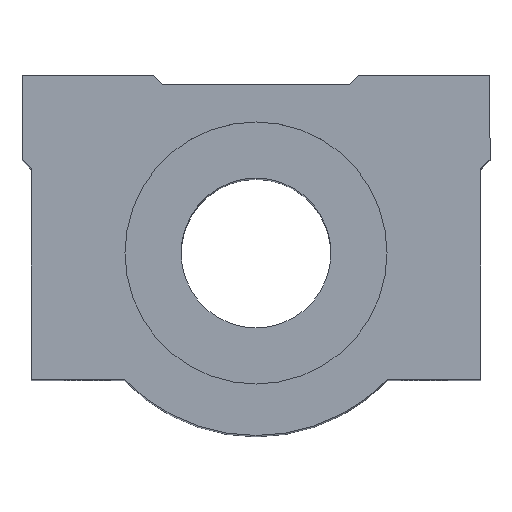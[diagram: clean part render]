
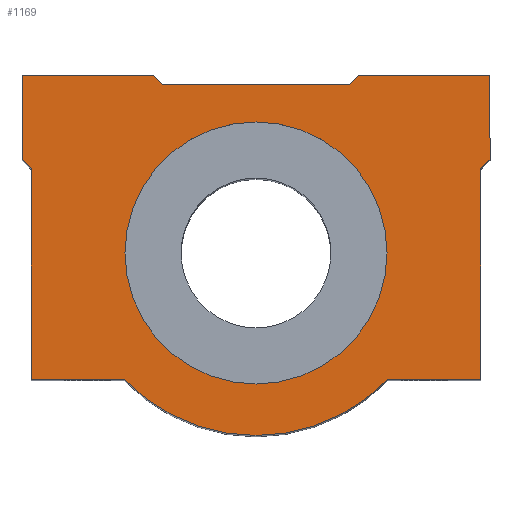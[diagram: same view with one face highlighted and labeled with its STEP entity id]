
A CAD part, top view. The second image highlights one B-rep face of the part: STEP entity #1169.
In plain terms, the highlighted planar face has unit normal (0, 0, 1).
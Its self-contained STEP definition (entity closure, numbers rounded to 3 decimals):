
#91=CARTESIAN_POINT('',(-14.709,4.198,83.0));
#92=VERTEX_POINT('',#91);
#101=CARTESIAN_POINT('',(13.291,4.198,83.0));
#102=VERTEX_POINT('',#101);
#103=CARTESIAN_POINT('',(-0.709,4.198,83.));
#104=DIRECTION('',(0.0,0.0,-1.0));
#105=DIRECTION('',(-1.0,0.0,0.0));
#106=AXIS2_PLACEMENT_3D('',#103,#104,#105);
#107=CIRCLE('',#106,14.);
#108=EDGE_CURVE('',#102,#92,#107,.T.);
#640=CARTESIAN_POINT('',(-0.709,4.198,83.));
#641=DIRECTION('',(0.0,0.0,-1.0));
#642=DIRECTION('',(-1.0,0.0,0.0));
#643=AXIS2_PLACEMENT_3D('',#640,#641,#642);
#644=CIRCLE('',#643,14.);
#645=EDGE_CURVE('',#92,#102,#644,.T.);
#780=CARTESIAN_POINT('',(24.291,14.198,83.));
#781=VERTEX_POINT('',#780);
#782=CARTESIAN_POINT('',(23.291,13.198,83.));
#783=VERTEX_POINT('',#782);
#784=CARTESIAN_POINT('',(24.291,14.198,83.));
#785=DIRECTION('',(-0.707,-0.707,0.0));
#786=VECTOR('',#785,1.414);
#787=LINE('',#784,#786);
#788=EDGE_CURVE('',#781,#783,#787,.T.);
#811=CARTESIAN_POINT('',(23.291,-9.302,83.));
#812=VERTEX_POINT('',#811);
#813=CARTESIAN_POINT('',(23.291,13.198,83.));
#814=DIRECTION('',(0.0,-1.0,0.0));
#815=VECTOR('',#814,22.5);
#816=LINE('',#813,#815);
#817=EDGE_CURVE('',#783,#812,#816,.T.);
#835=CARTESIAN_POINT('',(13.362,-9.302,83.));
#836=VERTEX_POINT('',#835);
#837=CARTESIAN_POINT('',(23.291,-9.302,83.));
#838=DIRECTION('',(-1.0,0.0,0.0));
#839=VECTOR('',#838,9.929);
#840=LINE('',#837,#839);
#841=EDGE_CURVE('',#812,#836,#840,.T.);
#867=CARTESIAN_POINT('',(-14.78,-9.302,83.));
#868=VERTEX_POINT('',#867);
#869=CARTESIAN_POINT('',(-0.709,4.198,83.0));
#870=DIRECTION('',(0.0,0.0,-1.0));
#871=DIRECTION('',(0.722,0.692,0.0));
#872=AXIS2_PLACEMENT_3D('',#869,#870,#871);
#873=CIRCLE('',#872,19.5);
#874=EDGE_CURVE('',#836,#868,#873,.T.);
#892=CARTESIAN_POINT('',(-24.709,-9.302,83.));
#893=VERTEX_POINT('',#892);
#894=CARTESIAN_POINT('',(-14.78,-9.302,83.));
#895=DIRECTION('',(-1.0,0.0,0.0));
#896=VECTOR('',#895,9.929);
#897=LINE('',#894,#896);
#898=EDGE_CURVE('',#868,#893,#897,.T.);
#924=CARTESIAN_POINT('',(-24.709,13.198,83.));
#925=VERTEX_POINT('',#924);
#926=CARTESIAN_POINT('',(-24.709,-9.302,83.));
#927=DIRECTION('',(0.0,1.0,0.0));
#928=VECTOR('',#927,22.5);
#929=LINE('',#926,#928);
#930=EDGE_CURVE('',#893,#925,#929,.T.);
#948=CARTESIAN_POINT('',(-25.709,14.198,83.));
#949=VERTEX_POINT('',#948);
#950=CARTESIAN_POINT('',(-24.709,13.198,83.));
#951=DIRECTION('',(-0.707,0.707,0.0));
#952=VECTOR('',#951,1.414);
#953=LINE('',#950,#952);
#954=EDGE_CURVE('',#925,#949,#953,.T.);
#972=CARTESIAN_POINT('',(-25.709,23.198,83.));
#973=VERTEX_POINT('',#972);
#974=CARTESIAN_POINT('',(-25.709,14.198,83.));
#975=DIRECTION('',(0.0,1.0,0.0));
#976=VECTOR('',#975,9.);
#977=LINE('',#974,#976);
#978=EDGE_CURVE('',#949,#973,#977,.T.);
#996=CARTESIAN_POINT('',(-11.709,23.198,83.));
#997=VERTEX_POINT('',#996);
#998=CARTESIAN_POINT('',(-25.709,23.198,83.));
#999=DIRECTION('',(1.0,0.0,0.0));
#1000=VECTOR('',#999,14.);
#1001=LINE('',#998,#1000);
#1002=EDGE_CURVE('',#973,#997,#1001,.T.);
#1028=CARTESIAN_POINT('',(-10.709,22.198,83.));
#1029=VERTEX_POINT('',#1028);
#1030=CARTESIAN_POINT('',(-11.709,23.198,83.));
#1031=DIRECTION('',(0.707,-0.707,0.0));
#1032=VECTOR('',#1031,1.414);
#1033=LINE('',#1030,#1032);
#1034=EDGE_CURVE('',#997,#1029,#1033,.T.);
#1052=CARTESIAN_POINT('',(9.291,22.198,83.));
#1053=VERTEX_POINT('',#1052);
#1054=CARTESIAN_POINT('',(-10.709,22.198,83.));
#1055=DIRECTION('',(1.0,0.0,0.0));
#1056=VECTOR('',#1055,20.0);
#1057=LINE('',#1054,#1056);
#1058=EDGE_CURVE('',#1029,#1053,#1057,.T.);
#1076=CARTESIAN_POINT('',(10.291,23.198,83.));
#1077=VERTEX_POINT('',#1076);
#1078=CARTESIAN_POINT('',(9.291,22.198,83.));
#1079=DIRECTION('',(0.707,0.707,0.0));
#1080=VECTOR('',#1079,1.414);
#1081=LINE('',#1078,#1080);
#1082=EDGE_CURVE('',#1053,#1077,#1081,.T.);
#1100=CARTESIAN_POINT('',(24.291,23.198,83.));
#1101=VERTEX_POINT('',#1100);
#1102=CARTESIAN_POINT('',(10.291,23.198,83.));
#1103=DIRECTION('',(1.0,0.0,0.0));
#1104=VECTOR('',#1103,14.0);
#1105=LINE('',#1102,#1104);
#1106=EDGE_CURVE('',#1077,#1101,#1105,.T.);
#1132=CARTESIAN_POINT('',(24.291,23.198,83.));
#1133=DIRECTION('',(0.0,-1.0,0.0));
#1134=VECTOR('',#1133,9.0);
#1135=LINE('',#1132,#1134);
#1136=EDGE_CURVE('',#1101,#781,#1135,.T.);
#1144=CARTESIAN_POINT('',(-0.709,6.142,83.));
#1145=DIRECTION('',(0.0,0.0,1.0));
#1146=DIRECTION('',(1.0,0.0,0.0));
#1147=AXIS2_PLACEMENT_3D('',#1144,#1145,#1146);
#1148=PLANE('',#1147);
#1149=ORIENTED_EDGE('',*,*,#788,.F.);
#1150=ORIENTED_EDGE('',*,*,#1136,.F.);
#1151=ORIENTED_EDGE('',*,*,#1106,.F.);
#1152=ORIENTED_EDGE('',*,*,#1082,.F.);
#1153=ORIENTED_EDGE('',*,*,#1058,.F.);
#1154=ORIENTED_EDGE('',*,*,#1034,.F.);
#1155=ORIENTED_EDGE('',*,*,#1002,.F.);
#1156=ORIENTED_EDGE('',*,*,#978,.F.);
#1157=ORIENTED_EDGE('',*,*,#954,.F.);
#1158=ORIENTED_EDGE('',*,*,#930,.F.);
#1159=ORIENTED_EDGE('',*,*,#898,.F.);
#1160=ORIENTED_EDGE('',*,*,#874,.F.);
#1161=ORIENTED_EDGE('',*,*,#841,.F.);
#1162=ORIENTED_EDGE('',*,*,#817,.F.);
#1163=EDGE_LOOP('',(#1149,#1150,#1151,#1152,#1153,#1154,#1155,#1156,#1157,#1158,#1159,#1160,#1161,#1162));
#1164=FACE_OUTER_BOUND('',#1163,.T.);
#1165=ORIENTED_EDGE('',*,*,#108,.T.);
#1166=ORIENTED_EDGE('',*,*,#645,.T.);
#1167=EDGE_LOOP('',(#1165,#1166));
#1168=FACE_BOUND('',#1167,.T.);
#1169=ADVANCED_FACE('',(#1164,#1168),#1148,.T.);
